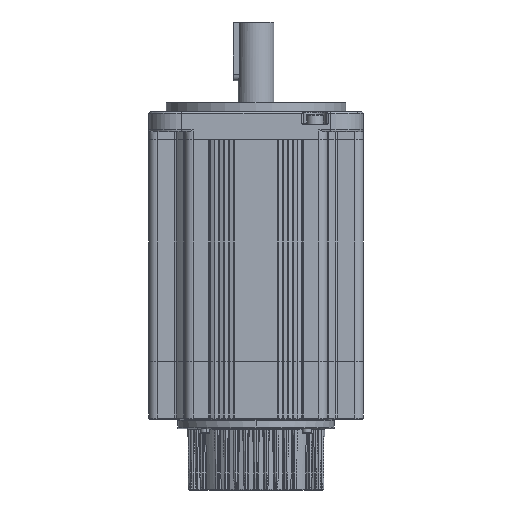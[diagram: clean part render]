
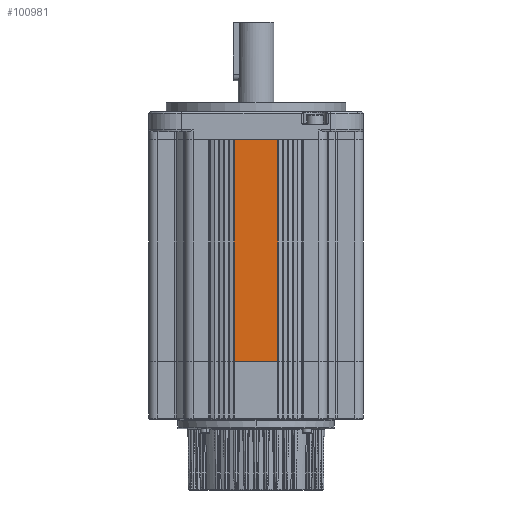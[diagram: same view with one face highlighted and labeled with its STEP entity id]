
A CAD part, front view. The second image highlights one B-rep face of the part: STEP entity #100981.
In plain terms, the highlighted planar face has unit normal (0, -1, 0).
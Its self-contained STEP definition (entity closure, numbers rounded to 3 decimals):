
#6664 = ORIENTED_EDGE ( 'NONE', *, *, #15622, .T. ) ;
#6742 = LINE ( 'NONE', #46026, #101720 ) ;
#15622 = EDGE_CURVE ( 'NONE', #125262, #65096, #126497, .T. ) ;
#19662 = ORIENTED_EDGE ( 'NONE', *, *, #57446, .T. ) ;
#24637 = DIRECTION ( 'NONE',  ( 1., 0., 0. ) ) ;
#24834 = CARTESIAN_POINT ( 'NONE',  ( 13.5, -65.5, 135.5 ) ) ;
#24891 = LINE ( 'NONE', #90333, #26697 ) ;
#26697 = VECTOR ( 'NONE', #79994, 1000. ) ;
#35435 = CARTESIAN_POINT ( 'NONE',  ( 13.2, -65.5, 135.5 ) ) ;
#45973 = CARTESIAN_POINT ( 'NONE',  ( 13.5, -65.5, 0. ) ) ;
#46026 = CARTESIAN_POINT ( 'NONE',  ( -13.2, -65.5, 135.5 ) ) ;
#50427 = DIRECTION ( 'NONE',  ( 0., 1., 0. ) ) ;
#56954 = VECTOR ( 'NONE', #143375, 1000. ) ;
#57446 = EDGE_CURVE ( 'NONE', #65096, #64207, #24891, .T. ) ;
#60684 = LINE ( 'NONE', #24834, #56954 ) ;
#61826 = AXIS2_PLACEMENT_3D ( 'NONE', #121618, #50427, #145570 ) ;
#64207 = VERTEX_POINT ( 'NONE', #35435 ) ;
#65096 = VERTEX_POINT ( 'NONE', #111646 ) ;
#73267 = EDGE_CURVE ( 'NONE', #125979, #64207, #60684, .T. ) ;
#79994 = DIRECTION ( 'NONE',  ( 0., 0., 1. ) ) ;
#83905 = VECTOR ( 'NONE', #24637, 1000. ) ;
#88004 = ORIENTED_EDGE ( 'NONE', *, *, #73267, .F. ) ;
#90333 = CARTESIAN_POINT ( 'NONE',  ( 13.2, -65.5, 135.5 ) ) ;
#93477 = DIRECTION ( 'NONE',  ( 0., 0., -1. ) ) ;
#94434 = CARTESIAN_POINT ( 'NONE',  ( -13.2, -65.5, 0. ) ) ;
#100981 = ADVANCED_FACE ( 'NONE', ( #144569 ), #135648, .F. ) ;
#101720 = VECTOR ( 'NONE', #93477, 1000. ) ;
#111646 = CARTESIAN_POINT ( 'NONE',  ( 13.2, -65.5, 0. ) ) ;
#115310 = CARTESIAN_POINT ( 'NONE',  ( -13.2, -65.5, 135.5 ) ) ;
#121618 = CARTESIAN_POINT ( 'NONE',  ( 13.5, -65.5, 135.5 ) ) ;
#123333 = EDGE_LOOP ( 'NONE', ( #6664, #19662, #88004, #151403 ) ) ;
#124508 = EDGE_CURVE ( 'NONE', #125979, #125262, #6742, .T. ) ;
#125262 = VERTEX_POINT ( 'NONE', #94434 ) ;
#125979 = VERTEX_POINT ( 'NONE', #115310 ) ;
#126497 = LINE ( 'NONE', #45973, #83905 ) ;
#135648 = PLANE ( 'NONE',  #61826 ) ;
#143375 = DIRECTION ( 'NONE',  ( 1., 0., 0. ) ) ;
#144569 = FACE_OUTER_BOUND ( 'NONE', #123333, .T. ) ;
#145570 = DIRECTION ( 'NONE',  ( 0., 0., 1. ) ) ;
#151403 = ORIENTED_EDGE ( 'NONE', *, *, #124508, .T. ) ;
